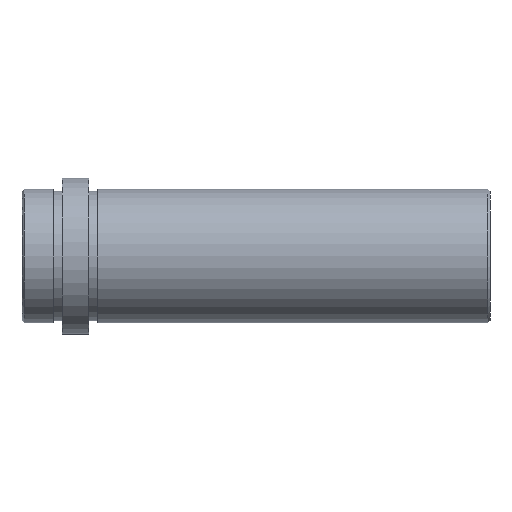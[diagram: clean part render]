
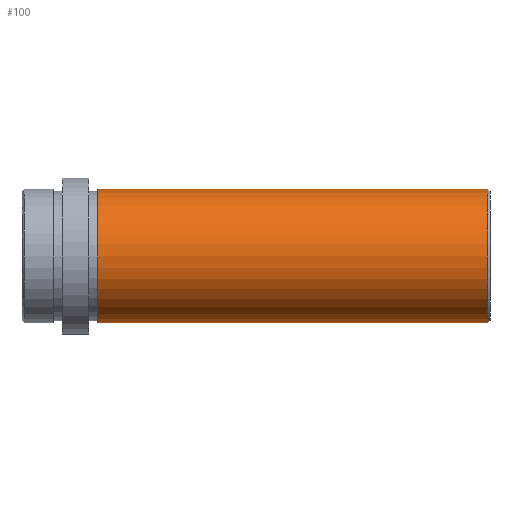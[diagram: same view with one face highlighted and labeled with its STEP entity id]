
A CAD part, front view. The second image highlights one B-rep face of the part: STEP entity #100.
In plain terms, the highlighted face is a revolution surface.
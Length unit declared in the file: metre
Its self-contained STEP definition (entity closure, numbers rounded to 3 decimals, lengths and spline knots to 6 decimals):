
#100 = ADVANCED_FACE( '', ( #157 ), #158, .F. );
#157 = FACE_OUTER_BOUND( '', #250, .T. );
#158 = SURFACE_OF_REVOLUTION( '', #251, #252 );
#250 = EDGE_LOOP( '', ( #419, #420, #421, #422 ) );
#251 = B_SPLINE_CURVE_WITH_KNOTS( '', 1, ( #423, #424 ), .UNSPECIFIED., .F., .F., ( 2, 2 ), ( -10000., 10000. ), .UNSPECIFIED. );
#252 = AXIS1_PLACEMENT( '', #425, #426 );
#419 = ORIENTED_EDGE( '', *, *, #492, .T. );
#420 = ORIENTED_EDGE( '', *, *, #490, .T. );
#421 = ORIENTED_EDGE( '', *, *, #445, .F. );
#422 = ORIENTED_EDGE( '', *, *, #489, .T. );
#423 = CARTESIAN_POINT( '', ( 10000.1045, 0., 0.015 ) );
#424 = CARTESIAN_POINT( '', ( -9999.8955, 0., 0.015 ) );
#425 = CARTESIAN_POINT( '', ( 0., 0., 0. ) );
#426 = DIRECTION( '', ( 1., 0., 0. ) );
#445 = EDGE_CURVE( '', #499, #500, #501, .T. );
#489 = EDGE_CURVE( '', #499, #571, #572, .F. );
#490 = EDGE_CURVE( '', #573, #500, #574, .T. );
#492 = EDGE_CURVE( '', #571, #573, #576, .T. );
#499 = VERTEX_POINT( '', #583 );
#500 = VERTEX_POINT( '', #584 );
#501 = CIRCLE( '', #585, 0.015 );
#571 = VERTEX_POINT( '', #671 );
#572 = LINE( '', #672, #673 );
#573 = VERTEX_POINT( '', #674 );
#574 = LINE( '', #675, #676 );
#576 = CIRCLE( '', #678, 0.015 );
#583 = CARTESIAN_POINT( '', ( 0.017, 0., -0.015 ) );
#584 = CARTESIAN_POINT( '', ( 0.017, 0., 0.015 ) );
#585 = AXIS2_PLACEMENT_3D( '', #689, #690, #691 );
#671 = CARTESIAN_POINT( '', ( 0.1045, 0., -0.015 ) );
#672 = CARTESIAN_POINT( '', ( 0.1045, 0., -0.015 ) );
#673 = VECTOR( '', #789, 1. );
#674 = CARTESIAN_POINT( '', ( 0.1045, 0., 0.015 ) );
#675 = CARTESIAN_POINT( '', ( 0.1045, 0., 0.015 ) );
#676 = VECTOR( '', #790, 1. );
#678 = AXIS2_PLACEMENT_3D( '', #794, #795, #796 );
#689 = CARTESIAN_POINT( '', ( 0.017, 0., 0. ) );
#690 = DIRECTION( '', ( -1., 0., 0. ) );
#691 = DIRECTION( '', ( 0., 0., 1. ) );
#789 = DIRECTION( '', ( -1., 0., 0. ) );
#790 = DIRECTION( '', ( -1., 0., 0. ) );
#794 = CARTESIAN_POINT( '', ( 0.1045, 0., 0. ) );
#795 = DIRECTION( '', ( -1., 0., 0. ) );
#796 = DIRECTION( '', ( 0., 0., 1. ) );
